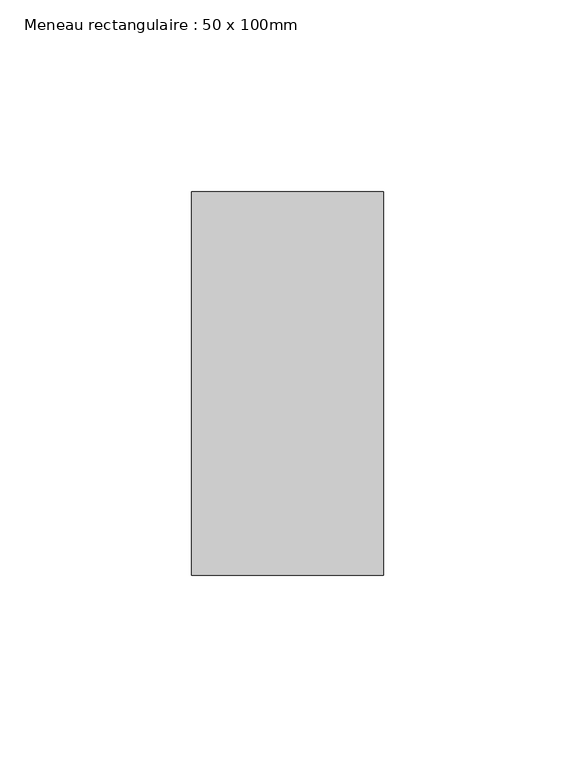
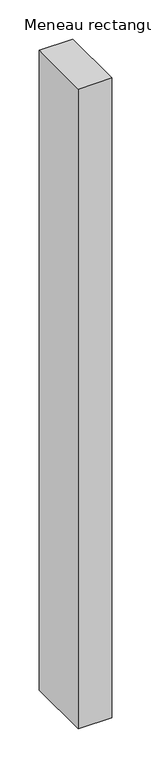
"""IFC4 building model written with IfcOpenShell, lengths in millimetres: member geometry, Meneau rectangulaire : 50 x 100mm."""

from ifc_helpers import new_model, si_unit, frame, origin, place, context, project, spatial, polyline, outline, extrude, source, transform, mapped, element, save


def meneau_rectangulaire_50_x_100mm_ed043693(model_context):
    return source(origin(), model_context, "Body", "SweptSolid", [
        extrude(outline(polyline([(25.0, 50.0), (25.0, -50.0), (-25.0, -50.0), (-25.0, 50.0), (25.0, 50.0)])), frame((0.0, 0.0, -1000.5020405), z_axis=(0.0, 0.0, 1.0), x_axis=(1.0, 0.0, 0.0)), (0.0, 0.0, 1.0), 1000.5020405),
    ])


if __name__ == "__main__":
    model = new_model("IFC4")
    model_context = context("Model", 3, world=origin())
    ifc_project = project(units=[si_unit("LENGTHUNIT", "METRE", prefix="MILLI")], contexts=[model_context])
    site = spatial("IfcSite", under=ifc_project)
    building = spatial("IfcBuilding", under=site)
    placement = place(None, origin())
    meneau_rectangulaire_50_x_100mm_shape = meneau_rectangulaire_50_x_100mm_ed043693(model_context)
    element("IfcMember", 1, ObjectType="Meneau rectangulaire : 50 x 100mm", at=placement, inside=building, context=model_context, shape_type="MappedRepresentation", body=[
        mapped(meneau_rectangulaire_50_x_100mm_shape, transform((0.0, 0.0, 0.0), x_axis=(1.0, 0.0, 0.0), y_axis=(0.0, 1.0, 0.0), z_axis=(0.0, 0.0, 1.0))),
    ])
    save(model, "model.ifc")
